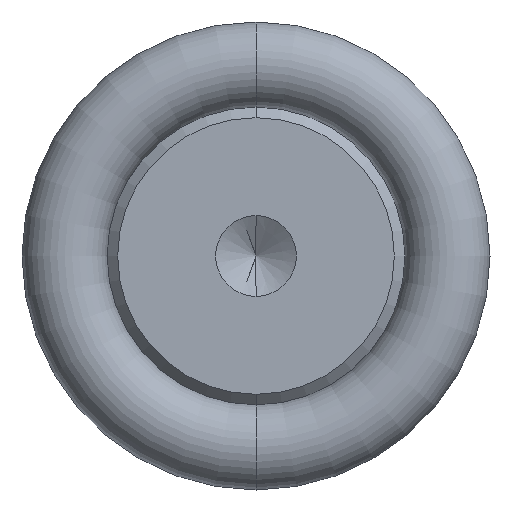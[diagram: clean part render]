
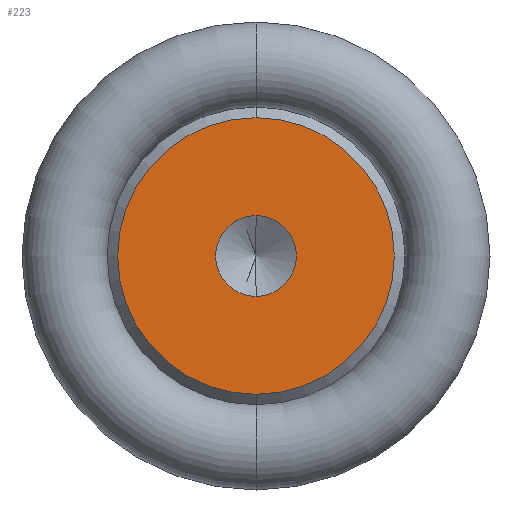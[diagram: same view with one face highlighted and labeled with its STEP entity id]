
A CAD part, front view. The second image highlights one B-rep face of the part: STEP entity #223.
In plain terms, the highlighted planar face has unit normal (0, -1, 0).
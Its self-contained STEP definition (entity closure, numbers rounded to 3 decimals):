
#223=ADVANCED_FACE('',(#409,#410),#411,.F.);
#409=FACE_OUTER_BOUND('',#588,.T.);
#410=FACE_BOUND('',#589,.T.);
#411=PLANE('',#590);
#588=EDGE_LOOP('',(#942,#943));
#589=EDGE_LOOP('',(#944,#945));
#590=AXIS2_PLACEMENT_3D('',#946,#947,#948);
#942=ORIENTED_EDGE('',*,*,#1165,.T.);
#943=ORIENTED_EDGE('',*,*,#1179,.T.);
#944=ORIENTED_EDGE('',*,*,#1212,.F.);
#945=ORIENTED_EDGE('',*,*,#1198,.F.);
#946=CARTESIAN_POINT('',(-7.0,-39.0,0.0));
#947=DIRECTION('',(-0.0,1.0,0.0));
#948=DIRECTION('',(1.0,0.0,0.0));
#1165=EDGE_CURVE('',#1350,#1347,#1351,.T.);
#1179=EDGE_CURVE('',#1347,#1350,#1374,.T.);
#1198=EDGE_CURVE('',#1398,#1400,#1401,.T.);
#1212=EDGE_CURVE('',#1400,#1398,#1421,.T.);
#1347=VERTEX_POINT('',#1611);
#1350=VERTEX_POINT('',#1615);
#1351=CIRCLE('',#1616,6.5);
#1374=CIRCLE('',#1642,6.5);
#1398=VERTEX_POINT('',#1696);
#1400=VERTEX_POINT('',#1699);
#1401=CIRCLE('',#1700,1.899);
#1421=CIRCLE('',#1723,1.899);
#1611=CARTESIAN_POINT('',(0.,-39.0,-6.5));
#1615=CARTESIAN_POINT('',(0.0,-39.0,6.5));
#1616=AXIS2_PLACEMENT_3D('',#1890,#1891,#1892);
#1642=AXIS2_PLACEMENT_3D('',#1917,#1918,#1919);
#1696=CARTESIAN_POINT('',(0.,-39.0,1.899));
#1699=CARTESIAN_POINT('',(0.0,-39.0,-1.899));
#1700=AXIS2_PLACEMENT_3D('',#1942,#1943,#1944);
#1723=AXIS2_PLACEMENT_3D('',#1969,#1970,#1971);
#1890=CARTESIAN_POINT('',(0.0,-39.0,0.0));
#1891=DIRECTION('',(0.0,-1.0,0.0));
#1892=DIRECTION('',(0.0,0.0,1.0));
#1917=CARTESIAN_POINT('',(0.0,-39.0,0.0));
#1918=DIRECTION('',(0.0,-1.0,0.0));
#1919=DIRECTION('',(0.0,0.0,1.0));
#1942=CARTESIAN_POINT('',(0.0,-39.0,0.0));
#1943=DIRECTION('',(0.0,-1.0,0.0));
#1944=DIRECTION('',(0.0,0.0,-1.0));
#1969=CARTESIAN_POINT('',(0.0,-39.0,0.0));
#1970=DIRECTION('',(0.0,-1.0,0.0));
#1971=DIRECTION('',(0.0,0.0,-1.0));
